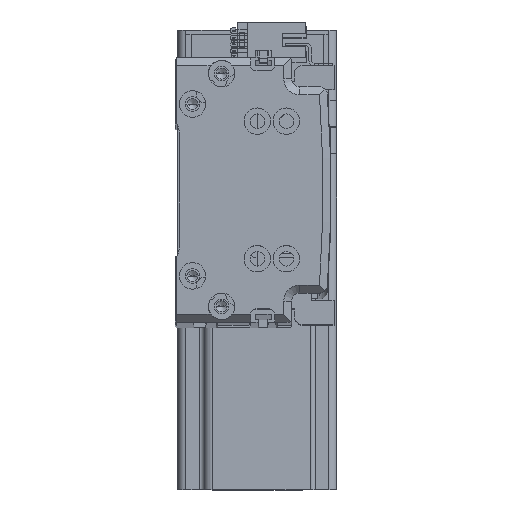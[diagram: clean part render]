
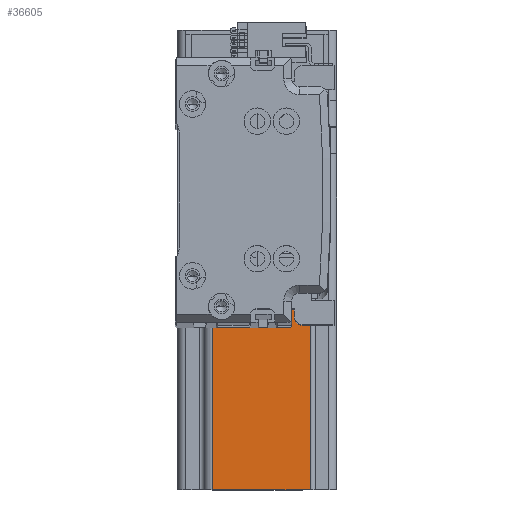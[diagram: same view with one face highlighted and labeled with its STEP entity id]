
A CAD part, top view. The second image highlights one B-rep face of the part: STEP entity #36605.
In plain terms, the highlighted planar face has unit normal (0, 0, 1) as drawn and (-1, 0, 0) by its records, which use the part's own axes.
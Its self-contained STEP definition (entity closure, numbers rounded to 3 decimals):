
#823 = DIRECTION ( 'NONE',  ( 0., 0., 1. ) ) ;
#902 = CARTESIAN_POINT ( 'NONE',  ( -30., -30., 137. ) ) ;
#1662 = CARTESIAN_POINT ( 'NONE',  ( -30., -30., 0. ) ) ;
#1735 = CARTESIAN_POINT ( 'NONE',  ( -30., 20., 137. ) ) ;
#1973 = EDGE_LOOP ( 'NONE', ( #28907, #13258, #49779, #8693, #9352, #19826, #27091, #47568 ) ) ;
#3302 = CARTESIAN_POINT ( 'NONE',  ( -30., -17., 137. ) ) ;
#4722 = VECTOR ( 'NONE', #823, 1000. ) ;
#4838 = LINE ( 'NONE', #37083, #38264 ) ;
#5302 = DIRECTION ( 'NONE',  ( 0., 0., -1. ) ) ;
#6045 = DIRECTION ( 'NONE',  ( 0., -1., 0. ) ) ;
#7738 = VERTEX_POINT ( 'NONE', #41118 ) ;
#8693 = ORIENTED_EDGE ( 'NONE', *, *, #24674, .F. ) ;
#9352 = ORIENTED_EDGE ( 'NONE', *, *, #25530, .T. ) ;
#11256 = CARTESIAN_POINT ( 'NONE',  ( -30., 27., 10. ) ) ;
#12542 = VERTEX_POINT ( 'NONE', #49813 ) ;
#13028 = CARTESIAN_POINT ( 'NONE',  ( -30., -30., 137. ) ) ;
#13258 = ORIENTED_EDGE ( 'NONE', *, *, #41848, .T. ) ;
#13392 = CARTESIAN_POINT ( 'NONE',  ( -30., 27., 0. ) ) ;
#13878 = LINE ( 'NONE', #24943, #35678 ) ;
#16255 = LINE ( 'NONE', #13028, #36704 ) ;
#16313 = CARTESIAN_POINT ( 'NONE',  ( -30., -30., 10. ) ) ;
#18943 = FACE_OUTER_BOUND ( 'NONE', #1973, .T. ) ;
#19027 = VECTOR ( 'NONE', #29425, 1000. ) ;
#19826 = ORIENTED_EDGE ( 'NONE', *, *, #46937, .T. ) ;
#22141 = CARTESIAN_POINT ( 'NONE',  ( -30., 20., 10. ) ) ;
#23919 = EDGE_CURVE ( 'NONE', #7738, #33469, #25702, .T. ) ;
#24394 = CARTESIAN_POINT ( 'NONE',  ( -30., -27., 0. ) ) ;
#24553 = CARTESIAN_POINT ( 'NONE',  ( -30., -27., 10. ) ) ;
#24674 = EDGE_CURVE ( 'NONE', #12542, #43557, #26910, .T. ) ;
#24943 = CARTESIAN_POINT ( 'NONE',  ( -30., 27., 137. ) ) ;
#25530 = EDGE_CURVE ( 'NONE', #12542, #37971, #4838, .T. ) ;
#25702 = LINE ( 'NONE', #16313, #27058 ) ;
#26551 = DIRECTION ( 'NONE',  ( 0., 0., 1. ) ) ;
#26910 = LINE ( 'NONE', #22141, #48693 ) ;
#27058 = VECTOR ( 'NONE', #51185, 1000. ) ;
#27091 = ORIENTED_EDGE ( 'NONE', *, *, #44113, .T. ) ;
#27534 = LINE ( 'NONE', #1662, #49340 ) ;
#27915 = LINE ( 'NONE', #3302, #19027 ) ;
#28907 = ORIENTED_EDGE ( 'NONE', *, *, #23919, .F. ) ;
#29320 = DIRECTION ( 'NONE',  ( 0., 0., -1. ) ) ;
#29425 = DIRECTION ( 'NONE',  ( 0., 0., 1. ) ) ;
#30780 = CARTESIAN_POINT ( 'NONE',  ( -30., -17., 137. ) ) ;
#31413 = AXIS2_PLACEMENT_3D ( 'NONE', #902, #31462, #5302 ) ;
#31462 = DIRECTION ( 'NONE',  ( 1., 0., 0. ) ) ;
#33469 = VERTEX_POINT ( 'NONE', #24553 ) ;
#35622 = PLANE ( 'NONE',  #31413 ) ;
#35678 = VECTOR ( 'NONE', #29320, 1000. ) ;
#36605 = ADVANCED_FACE ( 'NONE', ( #18943 ), #35622, .F. ) ;
#36704 = VECTOR ( 'NONE', #52292, 1000. ) ;
#37083 = CARTESIAN_POINT ( 'NONE',  ( -30., 30., 10. ) ) ;
#37971 = VERTEX_POINT ( 'NONE', #11256 ) ;
#38264 = VECTOR ( 'NONE', #45828, 1000. ) ;
#39519 = LINE ( 'NONE', #53097, #4722 ) ;
#41118 = CARTESIAN_POINT ( 'NONE',  ( -30., -17., 10. ) ) ;
#41848 = EDGE_CURVE ( 'NONE', #7738, #50026, #27915, .T. ) ;
#43557 = VERTEX_POINT ( 'NONE', #1735 ) ;
#44113 = EDGE_CURVE ( 'NONE', #48440, #48645, #27534, .T. ) ;
#45828 = DIRECTION ( 'NONE',  ( 0., 1., 0. ) ) ;
#46937 = EDGE_CURVE ( 'NONE', #37971, #48440, #13878, .T. ) ;
#47568 = ORIENTED_EDGE ( 'NONE', *, *, #51732, .T. ) ;
#48383 = EDGE_CURVE ( 'NONE', #43557, #50026, #16255, .T. ) ;
#48440 = VERTEX_POINT ( 'NONE', #13392 ) ;
#48645 = VERTEX_POINT ( 'NONE', #24394 ) ;
#48693 = VECTOR ( 'NONE', #26551, 1000. ) ;
#49340 = VECTOR ( 'NONE', #6045, 1000. ) ;
#49779 = ORIENTED_EDGE ( 'NONE', *, *, #48383, .F. ) ;
#49813 = CARTESIAN_POINT ( 'NONE',  ( -30., 20., 10. ) ) ;
#50026 = VERTEX_POINT ( 'NONE', #30780 ) ;
#51185 = DIRECTION ( 'NONE',  ( 0., -1., 0. ) ) ;
#51732 = EDGE_CURVE ( 'NONE', #48645, #33469, #39519, .T. ) ;
#52292 = DIRECTION ( 'NONE',  ( 0., -1., 0. ) ) ;
#53097 = CARTESIAN_POINT ( 'NONE',  ( -30., -27., 137. ) ) ;
